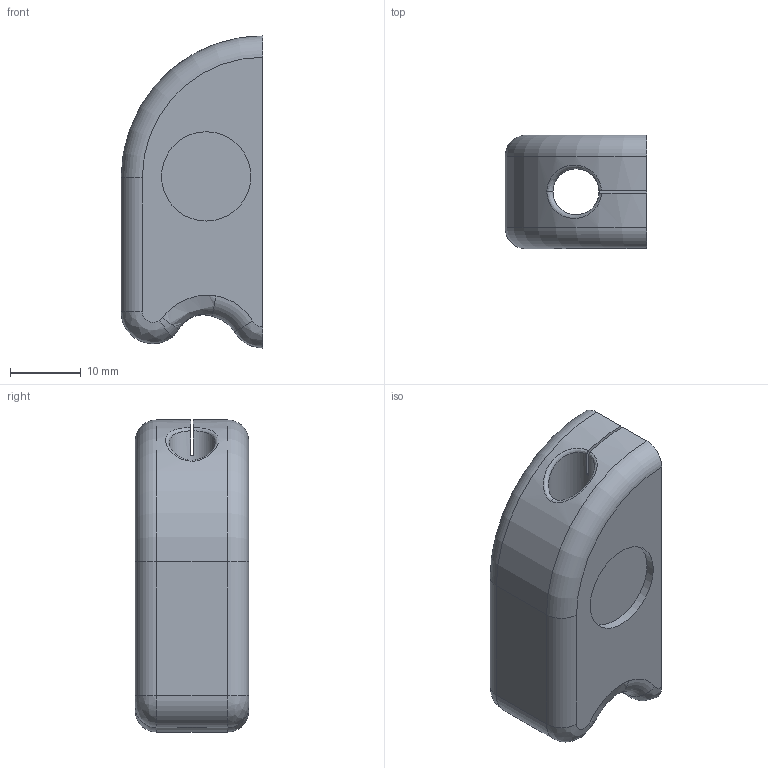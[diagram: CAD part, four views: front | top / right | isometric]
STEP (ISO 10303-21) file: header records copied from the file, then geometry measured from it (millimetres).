
FILE_DESCRIPTION(/* description */ (''),/* implementation_level */ '2;1');
FILE_NAME(/* name */ 'PacMan-L.step',/* time_stamp */ '2023-12-22T18:21:36+08:00',/* author */ (''),/* organization */ (''),/* preprocessor_version */ 'ST-DEVELOPER v20',/* originating_system */ 'Autodesk Translation Framework v12.14.0.127',/* authorisation */ '');
FILE_SCHEMA (('AUTOMOTIVE_DESIGN { 1 0 10303 214 3 1 1 }'));
Length unit declared in the file: millimetre
Products named in the file (2): (Unsaved); Pac Ghost - L
Assembly tree (1 placements, depth 2):
  (Unsaved)
    Pac Ghost - L
Bounding box: 20 x 16 x 44 mm (x, y, z)
Volume: 8203.6 mm3; surface area: 4572.7 mm2
Topology: 1 solids, 1 shells, 86 faces, 223 edges, 142 vertices
Faces by surface type: plane 34, bspline 26, cylinder 22, torus 4
Full cylindrical faces by diameter (mm): 3 x2, 6 x1, 6.5 x1, 11.5 x1, 12.6 x1
Entity records: 4007 total; most frequent: CARTESIAN_POINT 1929, ORIENTED_EDGE 446, DIRECTION 395, EDGE_CURVE 223, AXIS2_PLACEMENT_3D 150, VERTEX_POINT 142, LINE 95, VECTOR 95
